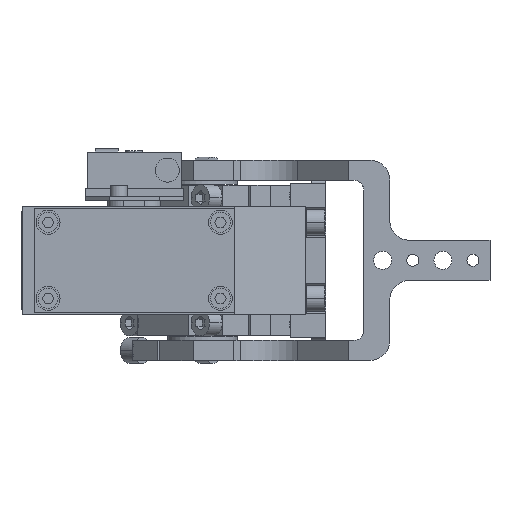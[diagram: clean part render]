
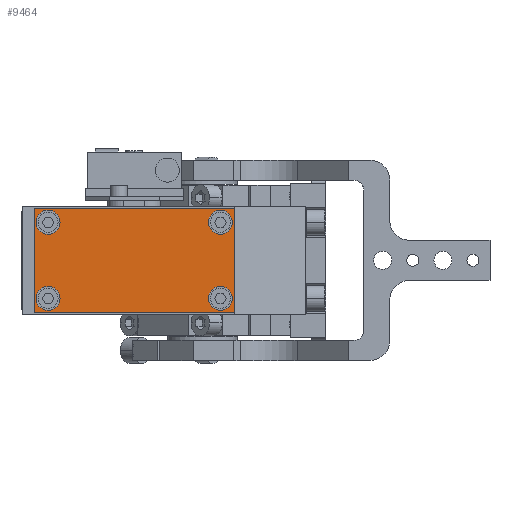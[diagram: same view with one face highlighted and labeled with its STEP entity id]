
A CAD part, front view. The second image highlights one B-rep face of the part: STEP entity #9464.
In plain terms, the highlighted planar face has unit normal (0, -1, 0).
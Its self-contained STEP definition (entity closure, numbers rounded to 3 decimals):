
#48 = CIRCLE ( 'NONE', #4268, 6. ) ;
#362 = EDGE_CURVE ( 'NONE', #11764, #10222, #24064, .T. ) ;
#499 = DIRECTION ( 'NONE',  ( 0., -1., 0. ) ) ;
#614 = CARTESIAN_POINT ( 'NONE',  ( -84., -294.5, 53. ) ) ;
#1006 = CARTESIAN_POINT ( 'NONE',  ( 16., -294.5, 53. ) ) ;
#1098 = CARTESIAN_POINT ( 'NONE',  ( -77., -294.5, 52. ) ) ;
#1651 = FACE_BOUND ( 'NONE', #23043, .T. ) ;
#1715 = DIRECTION ( 'NONE',  ( 0., 0., -1. ) ) ;
#2300 = DIRECTION ( 'NONE',  ( 0., -1., 0. ) ) ;
#2531 = LINE ( 'NONE', #15062, #10216 ) ;
#2748 = CIRCLE ( 'NONE', #20125, 6. ) ;
#3038 = CIRCLE ( 'NONE', #18813, 6. ) ;
#3625 = LINE ( 'NONE', #1006, #15953 ) ;
#4175 = DIRECTION ( 'NONE',  ( 0., 0., -1. ) ) ;
#4268 = AXIS2_PLACEMENT_3D ( 'NONE', #4919, #2300, #25138 ) ;
#4326 = DIRECTION ( 'NONE',  ( 0., -1., 0. ) ) ;
#4494 = AXIS2_PLACEMENT_3D ( 'NONE', #22402, #17281, #14622 ) ;
#4565 = EDGE_CURVE ( 'NONE', #7466, #17874, #2748, .T. ) ;
#4640 = ORIENTED_EDGE ( 'NONE', *, *, #19849, .T. ) ;
#4919 = CARTESIAN_POINT ( 'NONE',  ( 9., -294.5, 8. ) ) ;
#4941 = CIRCLE ( 'NONE', #18887, 6. ) ;
#5064 = PLANE ( 'NONE',  #8996 ) ;
#5195 = DIRECTION ( 'NONE',  ( 1., 0., 0. ) ) ;
#6052 = AXIS2_PLACEMENT_3D ( 'NONE', #17351, #6821, #4175 ) ;
#6224 = CIRCLE ( 'NONE', #20839, 6. ) ;
#6427 = EDGE_CURVE ( 'NONE', #10222, #11764, #4941, .T. ) ;
#6530 = ORIENTED_EDGE ( 'NONE', *, *, #19677, .F. ) ;
#6821 = DIRECTION ( 'NONE',  ( 0., -1., 0. ) ) ;
#6960 = FACE_BOUND ( 'NONE', #23729, .T. ) ;
#7466 = VERTEX_POINT ( 'NONE', #12920 ) ;
#7525 = ORIENTED_EDGE ( 'NONE', *, *, #22595, .F. ) ;
#7598 = EDGE_LOOP ( 'NONE', ( #10798, #4640, #6530, #20015 ) ) ;
#7732 = EDGE_CURVE ( 'NONE', #9101, #15719, #10498, .T. ) ;
#7865 = CARTESIAN_POINT ( 'NONE',  ( -84., -294.5, 53. ) ) ;
#7988 = ORIENTED_EDGE ( 'NONE', *, *, #362, .F. ) ;
#8031 = ORIENTED_EDGE ( 'NONE', *, *, #20919, .F. ) ;
#8317 = FACE_BOUND ( 'NONE', #20992, .T. ) ;
#8996 = AXIS2_PLACEMENT_3D ( 'NONE', #14976, #12374, #9756 ) ;
#9101 = VERTEX_POINT ( 'NONE', #614 ) ;
#9202 = VECTOR ( 'NONE', #10516, 1000. ) ;
#9251 = CIRCLE ( 'NONE', #19180, 6. ) ;
#9464 = ADVANCED_FACE ( 'NONE', ( #1651, #6960, #8317, #10304, #11627 ), #5064, .T. ) ;
#9756 = DIRECTION ( 'NONE',  ( 0., 0., -1. ) ) ;
#9912 = DIRECTION ( 'NONE',  ( 0., 0., -1. ) ) ;
#9939 = CARTESIAN_POINT ( 'NONE',  ( -84., -294.5, 1. ) ) ;
#10216 = VECTOR ( 'NONE', #12460, 1000. ) ;
#10222 = VERTEX_POINT ( 'NONE', #17447 ) ;
#10304 = FACE_BOUND ( 'NONE', #14679, .T. ) ;
#10389 = CARTESIAN_POINT ( 'NONE',  ( -77., -294.5, 14. ) ) ;
#10491 = EDGE_CURVE ( 'NONE', #17874, #7466, #13427, .T. ) ;
#10498 = LINE ( 'NONE', #7865, #15724 ) ;
#10516 = DIRECTION ( 'NONE',  ( 0., 0., -1. ) ) ;
#10558 = DIRECTION ( 'NONE',  ( 0., 0., -1. ) ) ;
#10798 = ORIENTED_EDGE ( 'NONE', *, *, #23952, .T. ) ;
#11024 = VERTEX_POINT ( 'NONE', #12446 ) ;
#11627 = FACE_OUTER_BOUND ( 'NONE', #7598, .T. ) ;
#11764 = VERTEX_POINT ( 'NONE', #1098 ) ;
#11934 = VERTEX_POINT ( 'NONE', #9939 ) ;
#12374 = DIRECTION ( 'NONE',  ( 0., -1., 0. ) ) ;
#12446 = CARTESIAN_POINT ( 'NONE',  ( 16., -294.5, 1. ) ) ;
#12460 = DIRECTION ( 'NONE',  ( 1., 0., 0. ) ) ;
#12519 = DIRECTION ( 'NONE',  ( 0., -1., 0. ) ) ;
#12920 = CARTESIAN_POINT ( 'NONE',  ( 9., -294.5, 40. ) ) ;
#13118 = CARTESIAN_POINT ( 'NONE',  ( -84., -294.5, 53. ) ) ;
#13134 = EDGE_CURVE ( 'NONE', #21772, #17733, #48, .T. ) ;
#13156 = DIRECTION ( 'NONE',  ( 0., -1., 0. ) ) ;
#13427 = CIRCLE ( 'NONE', #4494, 6. ) ;
#13625 = CARTESIAN_POINT ( 'NONE',  ( -77., -294.5, 8. ) ) ;
#13646 = ORIENTED_EDGE ( 'NONE', *, *, #10491, .F. ) ;
#14622 = DIRECTION ( 'NONE',  ( 0., 0., -1. ) ) ;
#14679 = EDGE_LOOP ( 'NONE', ( #15855, #7988 ) ) ;
#14882 = CARTESIAN_POINT ( 'NONE',  ( 9., -294.5, 14. ) ) ;
#14976 = CARTESIAN_POINT ( 'NONE',  ( 0., -294.5, 0. ) ) ;
#15062 = CARTESIAN_POINT ( 'NONE',  ( -84., -294.5, 1. ) ) ;
#15277 = EDGE_CURVE ( 'NONE', #20702, #22578, #6224, .T. ) ;
#15719 = VERTEX_POINT ( 'NONE', #15899 ) ;
#15720 = LINE ( 'NONE', #13118, #9202 ) ;
#15724 = VECTOR ( 'NONE', #5195, 1000. ) ;
#15855 = ORIENTED_EDGE ( 'NONE', *, *, #6427, .F. ) ;
#15899 = CARTESIAN_POINT ( 'NONE',  ( 16., -294.5, 53. ) ) ;
#15953 = VECTOR ( 'NONE', #23858, 1000. ) ;
#17281 = DIRECTION ( 'NONE',  ( 0., -1., 0. ) ) ;
#17351 = CARTESIAN_POINT ( 'NONE',  ( -77., -294.5, 46. ) ) ;
#17447 = CARTESIAN_POINT ( 'NONE',  ( -77., -294.5, 40. ) ) ;
#17488 = CARTESIAN_POINT ( 'NONE',  ( 9., -294.5, 46. ) ) ;
#17498 = ORIENTED_EDGE ( 'NONE', *, *, #4565, .F. ) ;
#17733 = VERTEX_POINT ( 'NONE', #14882 ) ;
#17743 = CARTESIAN_POINT ( 'NONE',  ( -77., -294.5, 46. ) ) ;
#17874 = VERTEX_POINT ( 'NONE', #19035 ) ;
#18322 = CARTESIAN_POINT ( 'NONE',  ( 9., -294.5, 2. ) ) ;
#18813 = AXIS2_PLACEMENT_3D ( 'NONE', #21577, #13156, #10558 ) ;
#18887 = AXIS2_PLACEMENT_3D ( 'NONE', #17743, #12519, #9912 ) ;
#19035 = CARTESIAN_POINT ( 'NONE',  ( 9., -294.5, 52. ) ) ;
#19180 = AXIS2_PLACEMENT_3D ( 'NONE', #25296, #22743, #20206 ) ;
#19677 = EDGE_CURVE ( 'NONE', #15719, #11024, #3625, .T. ) ;
#19849 = EDGE_CURVE ( 'NONE', #11934, #11024, #2531, .T. ) ;
#20015 = ORIENTED_EDGE ( 'NONE', *, *, #7732, .F. ) ;
#20125 = AXIS2_PLACEMENT_3D ( 'NONE', #17488, #4326, #1715 ) ;
#20206 = DIRECTION ( 'NONE',  ( 0., 0., -1. ) ) ;
#20698 = CARTESIAN_POINT ( 'NONE',  ( -77., -294.5, 2. ) ) ;
#20702 = VERTEX_POINT ( 'NONE', #20698 ) ;
#20839 = AXIS2_PLACEMENT_3D ( 'NONE', #13625, #499, #23355 ) ;
#20919 = EDGE_CURVE ( 'NONE', #22578, #20702, #3038, .T. ) ;
#20992 = EDGE_LOOP ( 'NONE', ( #17498, #13646 ) ) ;
#21577 = CARTESIAN_POINT ( 'NONE',  ( -77., -294.5, 8. ) ) ;
#21772 = VERTEX_POINT ( 'NONE', #18322 ) ;
#22402 = CARTESIAN_POINT ( 'NONE',  ( 9., -294.5, 46. ) ) ;
#22578 = VERTEX_POINT ( 'NONE', #10389 ) ;
#22595 = EDGE_CURVE ( 'NONE', #17733, #21772, #9251, .T. ) ;
#22743 = DIRECTION ( 'NONE',  ( 0., -1., 0. ) ) ;
#23043 = EDGE_LOOP ( 'NONE', ( #23397, #8031 ) ) ;
#23355 = DIRECTION ( 'NONE',  ( 0., 0., -1. ) ) ;
#23397 = ORIENTED_EDGE ( 'NONE', *, *, #15277, .F. ) ;
#23729 = EDGE_LOOP ( 'NONE', ( #24832, #7525 ) ) ;
#23858 = DIRECTION ( 'NONE',  ( 0., 0., -1. ) ) ;
#23952 = EDGE_CURVE ( 'NONE', #9101, #11934, #15720, .T. ) ;
#24064 = CIRCLE ( 'NONE', #6052, 6. ) ;
#24832 = ORIENTED_EDGE ( 'NONE', *, *, #13134, .F. ) ;
#25138 = DIRECTION ( 'NONE',  ( 0., 0., -1. ) ) ;
#25296 = CARTESIAN_POINT ( 'NONE',  ( 9., -294.5, 8. ) ) ;
